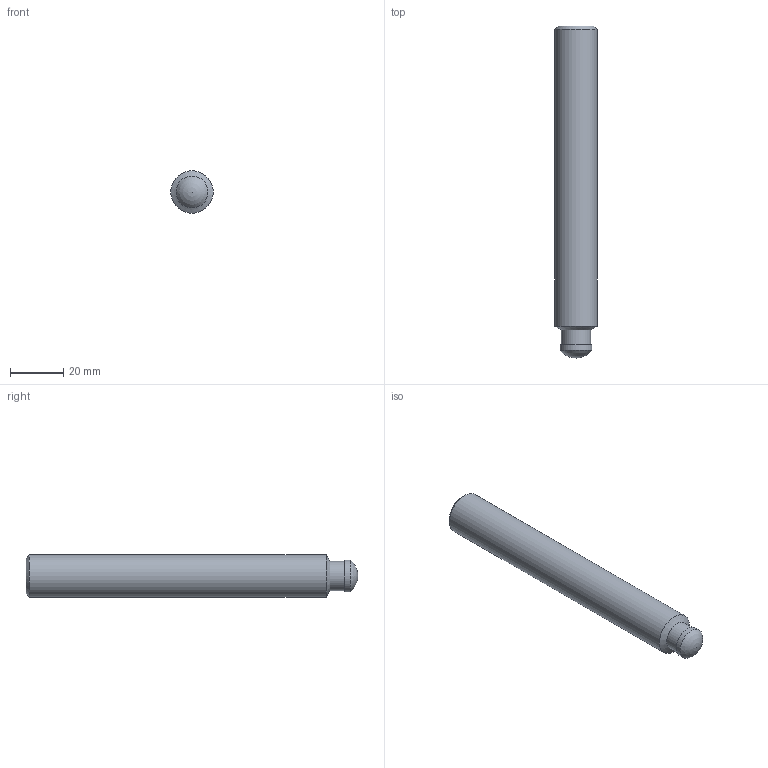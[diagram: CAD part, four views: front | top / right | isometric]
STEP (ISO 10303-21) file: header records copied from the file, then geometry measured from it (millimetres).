
FILE_DESCRIPTION( ( 'STEP AP203' ), '1' );
FILE_NAME( 'C:/Temp/Ganter_Step_05_03_2020/data/3_2/din6332/din6332_ni/Stainless Steel-Grub screw DIN 6332-M16-125-SKN-NI.stp', '2020-03-13T05:16:46', ( 'License CC BY-ND 4.0' ), ( 'CADENAS' ), ' ', 'PARTsolutions', ' ' );
FILE_SCHEMA( ( 'CONFIG_CONTROL_DESIGN' ) );
Length unit declared in the file: millimetre
Products named in the file (1): _Stainless Steel-Grub screw DIN 6332-M16-125-SKN-NI
Bounding box: 16 x 125 x 16 mm (x, y, z)
Volume: 23581.7 mm3; surface area: 6517 mm2
Topology: 1 solids, 1 shells, 15 faces, 33 edges, 21 vertices
Faces by surface type: plane 9, cylinder 3, cone 2, sphere 1
Full cylindrical faces by diameter (mm): 11 x1, 12 x1, 16 x1
Entity records: 410 total; most frequent: DIRECTION 64, CARTESIAN_POINT 61, ORIENTED_EDGE 50, EDGE_CURVE 25, AXIS2_PLACEMENT_3D 23, EDGE_LOOP 22, VERTEX_POINT 20, FACE_OUTER_BOUND 18
